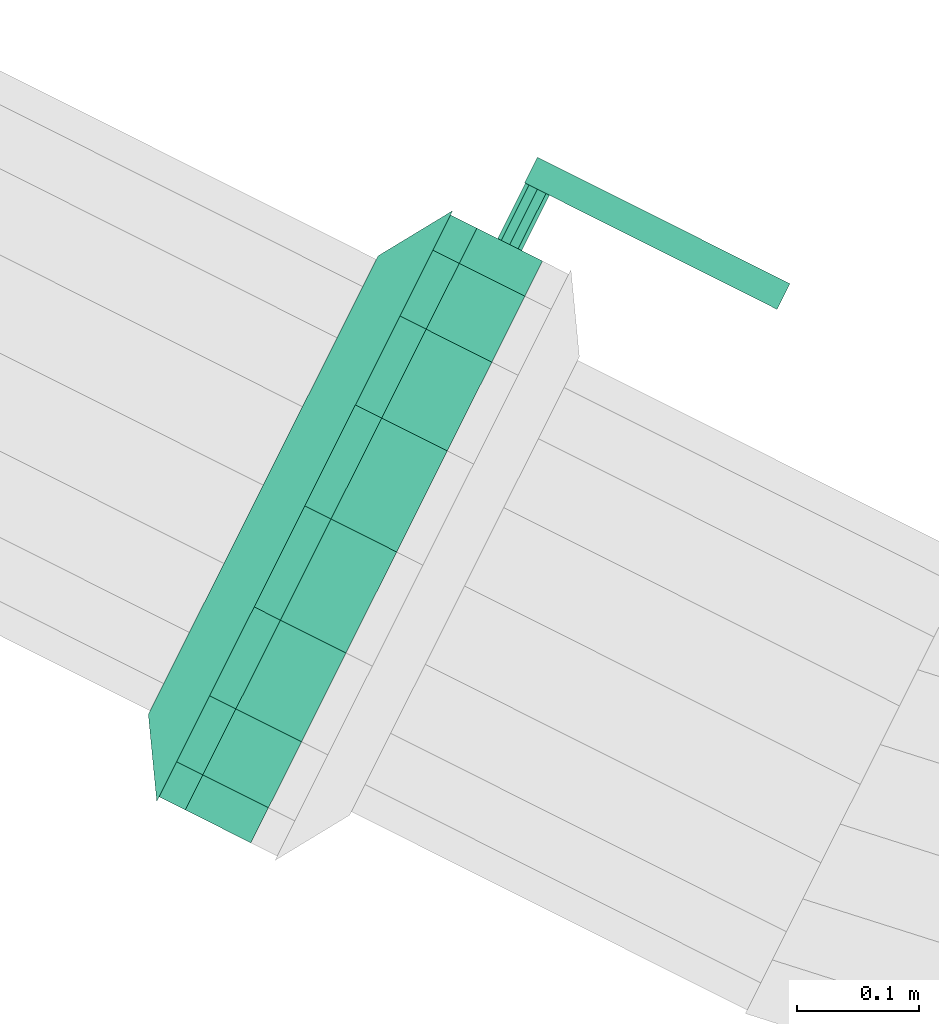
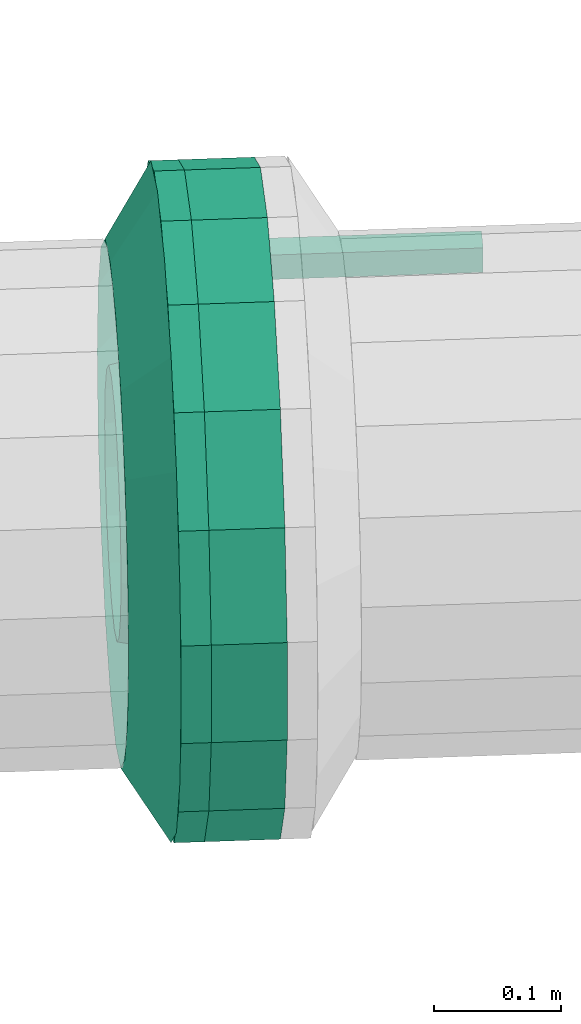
# One storey, part 26 of 152: 1 flow controller, 1 flow fitting.
"""IFC2X3 building model written with IfcOpenShell, lengths in metres."""

from ifc_helpers import new_model, si_unit, derived_unit, direction, frame, origin, place, context, subcontext, project, spatial, face_set, surface_model, source, transform, mapped, material, type_object, type_shapes, element, save


model = new_model("IFC2X3")

# Units and contexts
model_context = context("Model", 3, precision=5.2338327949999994e-05, world=origin(), true_north=direction((0.0, 1.0)))
body_context = subcontext(model_context, "Body", "Model", "MODEL_VIEW")
ifc_project = project(units=[si_unit("LENGTHUNIT", "METRE"), si_unit("AREAUNIT", "SQUARE_METRE"), si_unit("VOLUMEUNIT", "CUBIC_METRE"), si_unit("MASSUNIT", "GRAM", prefix="KILO"), si_unit("PLANEANGLEUNIT", "RADIAN"), derived_unit("THERMALTRANSMITTANCEUNIT", [(si_unit("MASSUNIT", "GRAM", prefix="KILO"), 1), (si_unit("THERMODYNAMICTEMPERATUREUNIT", "KELVIN"), -1), (si_unit("TIMEUNIT", "SECOND"), -3)])], contexts=[model_context])

# Site, building, storey
site_placement = place(None, frame((0.0, 0.0, 0.0), z_axis=(0.0, 0.0, 1.0), x_axis=(0.8939966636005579, -0.4480736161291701, 0.0)))
site = spatial("IfcSite", under=ifc_project, at=site_placement, Name="Default", CompositionType="ELEMENT")
building_placement = place(site_placement, origin())
building = spatial("IfcBuilding", under=site, at=building_placement, CompositionType="ELEMENT")
storey_placement = place(building_placement, frame((0.0, 0.0, 2.7499999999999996)))
storey = spatial("IfcBuildingStorey", under=building, at=storey_placement, Name="1. Obergeschoss", CompositionType="ELEMENT", Elevation=2.7499999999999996)

# Flow controller
ifc_material = material(Name="IfcSurfaceStyle #9317")
distribution_element_type_1 = type_object("IfcDistributionElementType", Name="Zwischenflanschklappe 262704:Zwischenflanschklappe 262704", material=ifc_material)
shared_shape_1 = source(origin(), body_context, "Body", "SurfaceModel", [
    surface_model("IfcFaceBasedSurfaceModel", [(16.270397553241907, 6.173287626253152, 5.647390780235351), (16.039547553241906, 6.173287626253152, 5.647390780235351), (16.039547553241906, 6.173287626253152, 5.62389078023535), (16.270397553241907, 6.173287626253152, 5.62389078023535), (16.039547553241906, 6.196787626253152, 5.62389078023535), (16.270397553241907, 6.196787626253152, 5.62389078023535), (16.039547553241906, 6.196787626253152, 5.647390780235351), (16.270397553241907, 6.196787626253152, 5.647390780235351), (16.081297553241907, 5.856787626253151, 5.518140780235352), (16.081297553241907, 5.816600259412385, 5.525226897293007), (16.061297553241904, 5.816600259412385, 5.525226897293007), (16.061297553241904, 5.856787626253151, 5.518140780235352), (16.081297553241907, 5.781260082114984, 5.545630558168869), (16.061297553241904, 5.781260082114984, 5.545630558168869), (16.081297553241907, 5.755029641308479, 5.57689078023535), (16.061297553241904, 5.755029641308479, 5.57689078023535), (16.081297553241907, 5.7410727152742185, 5.615237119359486), (16.061297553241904, 5.7410727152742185, 5.615237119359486), (16.081297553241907, 5.741072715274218, 5.656044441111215), (16.061297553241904, 5.741072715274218, 5.656044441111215), (16.081297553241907, 5.75502964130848, 5.69439078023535), (16.061297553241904, 5.75502964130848, 5.69439078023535), (16.081297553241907, 5.781260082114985, 5.72565100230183), (16.061297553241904, 5.781260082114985, 5.72565100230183), (16.081297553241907, 5.816600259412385, 5.746054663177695), (16.061297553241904, 5.816600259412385, 5.746054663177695), (16.081297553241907, 5.856787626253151, 5.75314078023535), (16.061297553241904, 5.856787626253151, 5.75314078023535), (16.081297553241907, 5.8969749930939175, 5.746054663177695), (16.061297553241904, 5.8969749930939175, 5.746054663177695), (16.081297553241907, 5.93231517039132, 5.72565100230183), (16.061297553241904, 5.93231517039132, 5.72565100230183), (16.081297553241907, 5.958545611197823, 5.69439078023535), (16.061297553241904, 5.958545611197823, 5.69439078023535), (16.081297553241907, 5.972502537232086, 5.656044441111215), (16.061297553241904, 5.972502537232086, 5.656044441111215), (16.081297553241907, 5.972502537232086, 5.615237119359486), (16.061297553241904, 5.972502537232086, 5.615237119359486), (16.081297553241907, 5.958545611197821, 5.57689078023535), (16.061297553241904, 5.958545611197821, 5.57689078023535), (16.081297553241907, 5.93231517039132, 5.545630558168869), (16.061297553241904, 5.93231517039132, 5.545630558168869), (16.081297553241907, 5.8969749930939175, 5.525226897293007), (16.061297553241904, 5.8969749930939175, 5.525226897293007), (16.081297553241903, 5.856787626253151, 5.63564078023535), (16.061297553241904, 5.856787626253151, 5.63564078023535), (16.061297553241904, 5.856787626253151, 5.465640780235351), (16.061297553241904, 5.798644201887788, 5.475893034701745), (16.041297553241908, 5.798644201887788, 5.475893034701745), (16.041297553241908, 5.856787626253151, 5.465640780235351), (16.061297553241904, 5.747513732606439, 5.505413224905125), (16.041297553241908, 5.747513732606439, 5.505413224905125), (16.061297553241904, 5.7095633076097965, 5.550640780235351), (16.041297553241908, 5.7095633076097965, 5.550640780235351), (16.061297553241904, 5.689370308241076, 5.606120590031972), (16.041297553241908, 5.689370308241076, 5.606120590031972), (16.061297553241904, 5.689370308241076, 5.665160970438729), (16.041297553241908, 5.689370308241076, 5.665160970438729), (16.061297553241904, 5.709563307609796, 5.72064078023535), (16.041297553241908, 5.709563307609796, 5.72064078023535), (16.061297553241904, 5.747513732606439, 5.765868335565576), (16.041297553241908, 5.747513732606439, 5.765868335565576), (16.061297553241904, 5.798644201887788, 5.795388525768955), (16.041297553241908, 5.798644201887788, 5.795388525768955), (16.061297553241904, 5.856787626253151, 5.8056407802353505), (16.041297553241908, 5.856787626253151, 5.8056407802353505), (16.061297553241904, 5.914931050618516, 5.795388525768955), (16.041297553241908, 5.914931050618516, 5.795388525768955), (16.061297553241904, 5.9660615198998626, 5.7658683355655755), (16.041297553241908, 5.9660615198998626, 5.7658683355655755), (16.061297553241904, 6.004011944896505, 5.72064078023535), (16.041297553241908, 6.004011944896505, 5.72064078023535), (16.061297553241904, 6.024204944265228, 5.665160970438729), (16.041297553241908, 6.024204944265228, 5.665160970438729), (16.061297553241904, 6.024204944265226, 5.6061205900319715), (16.041297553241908, 6.024204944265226, 5.6061205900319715), (16.061297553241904, 6.004011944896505, 5.550640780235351), (16.041297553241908, 6.004011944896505, 5.550640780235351), (16.061297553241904, 5.966061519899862, 5.505413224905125), (16.041297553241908, 5.966061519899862, 5.505413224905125), (16.061297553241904, 5.914931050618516, 5.475893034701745), (16.041297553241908, 5.914931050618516, 5.475893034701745), (16.041297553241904, 5.856787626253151, 5.63564078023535), (16.041297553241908, 5.856787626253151, 5.518140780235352), (16.041297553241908, 5.816600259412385, 5.525226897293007), (16.021297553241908, 5.816600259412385, 5.525226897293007), (16.021297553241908, 5.856787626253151, 5.518140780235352), (16.041297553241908, 5.781260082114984, 5.545630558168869), (16.021297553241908, 5.781260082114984, 5.545630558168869), (16.041297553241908, 5.755029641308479, 5.57689078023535), (16.021297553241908, 5.755029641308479, 5.57689078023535), (16.041297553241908, 5.7410727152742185, 5.615237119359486), (16.021297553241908, 5.7410727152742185, 5.615237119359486), (16.041297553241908, 5.741072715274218, 5.656044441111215), (16.021297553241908, 5.741072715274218, 5.656044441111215), (16.041297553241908, 5.75502964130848, 5.69439078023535), (16.021297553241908, 5.75502964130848, 5.69439078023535), (16.041297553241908, 5.781260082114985, 5.72565100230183), (16.021297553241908, 5.781260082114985, 5.72565100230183), (16.041297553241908, 5.816600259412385, 5.746054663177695), (16.021297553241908, 5.816600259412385, 5.746054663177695), (16.041297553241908, 5.856787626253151, 5.75314078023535), (16.021297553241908, 5.856787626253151, 5.75314078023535), (16.041297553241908, 5.8969749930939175, 5.746054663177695), (16.021297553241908, 5.8969749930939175, 5.746054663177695), (16.041297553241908, 5.93231517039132, 5.72565100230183), (16.021297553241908, 5.93231517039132, 5.72565100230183), (16.041297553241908, 5.958545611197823, 5.69439078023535), (16.021297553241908, 5.958545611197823, 5.69439078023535), (16.041297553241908, 5.972502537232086, 5.656044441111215), (16.021297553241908, 5.972502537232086, 5.656044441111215), (16.041297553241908, 5.972502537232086, 5.615237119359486), (16.021297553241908, 5.972502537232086, 5.615237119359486), (16.041297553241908, 5.958545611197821, 5.57689078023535), (16.021297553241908, 5.958545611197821, 5.57689078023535), (16.041297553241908, 5.93231517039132, 5.545630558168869), (16.021297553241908, 5.93231517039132, 5.545630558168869), (16.041297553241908, 5.8969749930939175, 5.525226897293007), (16.021297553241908, 5.8969749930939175, 5.525226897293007), (16.021297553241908, 5.856787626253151, 5.63564078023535), (16.051297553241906, 5.856787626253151, 5.62564078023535), (16.04787735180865, 5.856787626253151, 5.626243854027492), (16.04787735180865, 6.100037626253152, 5.626243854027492), (16.051297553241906, 6.100037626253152, 5.62564078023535), (16.04486967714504, 5.856787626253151, 5.62798033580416), (16.04486967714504, 6.100037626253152, 5.62798033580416), (16.042637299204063, 5.856787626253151, 5.63064078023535), (16.042637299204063, 6.100037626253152, 5.63064078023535), (16.041449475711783, 5.856787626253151, 5.633904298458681), (16.041449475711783, 6.100037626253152, 5.633904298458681), (16.041449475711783, 5.856787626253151, 5.63737726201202), (16.041449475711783, 6.100037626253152, 5.63737726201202), (16.042637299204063, 5.856787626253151, 5.6406407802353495), (16.042637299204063, 6.100037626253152, 5.6406407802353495), (16.04486967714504, 5.856787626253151, 5.64330122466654), (16.04486967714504, 6.100037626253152, 5.64330122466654), (16.04787735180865, 5.856787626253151, 5.645037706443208), (16.04787735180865, 6.100037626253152, 5.645037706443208), (16.051297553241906, 5.856787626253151, 5.6456407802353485), (16.051297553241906, 6.100037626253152, 5.6456407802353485), (16.054717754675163, 5.856787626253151, 5.645037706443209), (16.054717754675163, 6.100037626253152, 5.645037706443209), (16.057725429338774, 5.856787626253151, 5.64330122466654), (16.057725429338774, 6.100037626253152, 5.64330122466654), (16.05995780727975, 5.856787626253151, 5.6406407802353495), (16.05995780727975, 6.100037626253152, 5.6406407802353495), (16.061145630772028, 5.856787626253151, 5.637377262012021), (16.061145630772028, 6.100037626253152, 5.637377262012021), (16.061145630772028, 5.856787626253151, 5.633904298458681), (16.061145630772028, 6.100037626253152, 5.633904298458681), (16.05995780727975, 5.856787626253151, 5.63064078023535), (16.05995780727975, 6.100037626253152, 5.63064078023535), (16.057725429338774, 5.856787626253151, 5.62798033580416), (16.057725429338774, 6.100037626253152, 5.62798033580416), (16.054717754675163, 5.856787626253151, 5.626243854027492), (16.054717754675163, 6.100037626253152, 5.626243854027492), (16.051297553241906, 5.85678762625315, 5.63564078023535), (16.051297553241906, 6.100037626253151, 5.63564078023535), (16.051297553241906, 6.100037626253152, 5.6246857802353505), (16.043551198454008, 6.100037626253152, 5.627894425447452), (16.043551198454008, 6.173287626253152, 5.627894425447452), (16.051297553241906, 6.173287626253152, 5.6246857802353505), (16.040342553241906, 6.100037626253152, 5.63564078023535), (16.040342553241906, 6.173287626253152, 5.63564078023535), (16.043551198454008, 6.100037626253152, 5.643387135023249), (16.043551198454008, 6.173287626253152, 5.643387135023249), (16.051297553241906, 6.100037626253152, 5.646595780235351), (16.051297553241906, 6.173287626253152, 5.646595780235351), (16.059043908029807, 6.100037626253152, 5.643387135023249), (16.059043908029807, 6.173287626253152, 5.643387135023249), (16.062252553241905, 6.100037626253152, 5.63564078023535), (16.062252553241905, 6.173287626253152, 5.63564078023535), (16.05904390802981, 6.100037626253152, 5.627894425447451), (16.05904390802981, 6.173287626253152, 5.627894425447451), (16.051297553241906, 6.173287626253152, 5.63564078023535), (16.081297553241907, 5.856787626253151, 5.365640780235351), (16.081297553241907, 5.764442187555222, 5.381923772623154), (16.021297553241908, 5.764442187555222, 5.381923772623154), (16.021297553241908, 5.856787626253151, 5.365640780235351), (16.081297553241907, 5.683234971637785, 5.4288087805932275), (16.021297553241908, 5.683234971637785, 5.4288087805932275), (16.081297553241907, 5.622960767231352, 5.50064078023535), (16.021297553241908, 5.622960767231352, 5.50064078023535), (16.081297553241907, 5.590889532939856, 5.588755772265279), (16.021297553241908, 5.590889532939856, 5.588755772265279), (16.081297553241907, 5.590889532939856, 5.682525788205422), (16.021297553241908, 5.590889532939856, 5.682525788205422), (16.081297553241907, 5.622960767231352, 5.770640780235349), (16.021297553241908, 5.622960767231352, 5.770640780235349), (16.081297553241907, 5.683234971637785, 5.8424727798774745), (16.021297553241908, 5.683234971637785, 5.8424727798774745), (16.081297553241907, 5.764442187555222, 5.889357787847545), (16.021297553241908, 5.764442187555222, 5.889357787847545), (16.081297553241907, 5.856787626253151, 5.90564078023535), (16.021297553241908, 5.856787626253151, 5.90564078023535), (16.081297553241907, 5.9491330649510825, 5.889357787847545), (16.021297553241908, 5.9491330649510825, 5.889357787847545), (16.081297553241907, 6.030340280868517, 5.8424727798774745), (16.021297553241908, 6.030340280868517, 5.8424727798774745), (16.081297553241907, 6.09061448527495, 5.770640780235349), (16.021297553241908, 6.09061448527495, 5.770640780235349), (16.081297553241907, 6.122685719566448, 5.682525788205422), (16.021297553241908, 6.122685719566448, 5.682525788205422), (16.081297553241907, 6.122685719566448, 5.588755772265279), (16.021297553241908, 6.122685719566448, 5.588755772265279), (16.081297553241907, 6.09061448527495, 5.50064078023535), (16.021297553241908, 6.09061448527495, 5.50064078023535), (16.081297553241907, 6.030340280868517, 5.428808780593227), (16.021297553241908, 6.030340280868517, 5.428808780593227), (16.081297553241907, 5.949133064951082, 5.381923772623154), (16.021297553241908, 5.949133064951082, 5.381923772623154)], [face_set([[[0, 1, 2, 3]], [[3, 2, 4, 5]], [[5, 4, 6, 7]], [[7, 6, 1, 0]], [[0, 3, 5, 7]], [[6, 4, 2, 1]], [[8, 9, 10, 11]], [[9, 12, 13, 10]], [[12, 14, 15, 13]], [[14, 16, 17, 15]], [[16, 18, 19, 17]], [[18, 20, 21, 19]], [[20, 22, 23, 21]], [[22, 24, 25, 23]], [[24, 26, 27, 25]], [[26, 28, 29, 27]], [[28, 30, 31, 29]], [[30, 32, 33, 31]], [[32, 34, 35, 33]], [[34, 36, 37, 35]], [[36, 38, 39, 37]], [[38, 40, 41, 39]], [[40, 42, 43, 41]], [[42, 8, 11, 43]], [[44, 9, 8]], [[44, 12, 9]], [[44, 14, 12]], [[44, 16, 14]], [[44, 18, 16]], [[44, 20, 18]], [[44, 22, 20]], [[44, 24, 22]], [[44, 26, 24]], [[44, 28, 26]], [[44, 30, 28]], [[44, 32, 30]], [[44, 34, 32]], [[44, 36, 34]], [[44, 38, 36]], [[44, 40, 38]], [[44, 42, 40]], [[44, 8, 42]], [[45, 43, 11]], [[45, 41, 43]], [[45, 39, 41]], [[45, 37, 39]], [[45, 35, 37]], [[45, 33, 35]], [[45, 31, 33]], [[45, 29, 31]], [[45, 27, 29]], [[45, 25, 27]], [[45, 23, 25]], [[45, 21, 23]], [[45, 19, 21]], [[45, 17, 19]], [[45, 15, 17]], [[45, 13, 15]], [[45, 10, 13]], [[45, 11, 10]], [[46, 47, 48, 49]], [[47, 50, 51, 48]], [[50, 52, 53, 51]], [[52, 54, 55, 53]], [[54, 56, 57, 55]], [[56, 58, 59, 57]], [[58, 60, 61, 59]], [[60, 62, 63, 61]], [[62, 64, 65, 63]], [[64, 66, 67, 65]], [[66, 68, 69, 67]], [[68, 70, 71, 69]], [[70, 72, 73, 71]], [[72, 74, 75, 73]], [[74, 76, 77, 75]], [[76, 78, 79, 77]], [[78, 80, 81, 79]], [[80, 46, 49, 81]], [[45, 47, 46]], [[45, 50, 47]], [[45, 52, 50]], [[45, 54, 52]], [[45, 56, 54]], [[45, 58, 56]], [[45, 60, 58]], [[45, 62, 60]], [[45, 64, 62]], [[45, 66, 64]], [[45, 68, 66]], [[45, 70, 68]], [[45, 72, 70]], [[45, 74, 72]], [[45, 76, 74]], [[45, 78, 76]], [[45, 80, 78]], [[45, 46, 80]], [[82, 81, 49]], [[82, 79, 81]], [[82, 77, 79]], [[82, 75, 77]], [[82, 73, 75]], [[82, 71, 73]], [[82, 69, 71]], [[82, 67, 69]], [[82, 65, 67]], [[82, 63, 65]], [[82, 61, 63]], [[82, 59, 61]], [[82, 57, 59]], [[82, 55, 57]], [[82, 53, 55]], [[82, 51, 53]], [[82, 48, 51]], [[82, 49, 48]], [[83, 84, 85, 86]], [[84, 87, 88, 85]], [[87, 89, 90, 88]], [[89, 91, 92, 90]], [[91, 93, 94, 92]], [[93, 95, 96, 94]], [[95, 97, 98, 96]], [[97, 99, 100, 98]], [[99, 101, 102, 100]], [[101, 103, 104, 102]], [[103, 105, 106, 104]], [[105, 107, 108, 106]], [[107, 109, 110, 108]], [[109, 111, 112, 110]], [[111, 113, 114, 112]], [[113, 115, 116, 114]], [[115, 117, 118, 116]], [[117, 83, 86, 118]], [[82, 84, 83]], [[82, 87, 84]], [[82, 89, 87]], [[82, 91, 89]], [[82, 93, 91]], [[82, 95, 93]], [[82, 97, 95]], [[82, 99, 97]], [[82, 101, 99]], [[82, 103, 101]], [[82, 105, 103]], [[82, 107, 105]], [[82, 109, 107]], [[82, 111, 109]], [[82, 113, 111]], [[82, 115, 113]], [[82, 117, 115]], [[82, 83, 117]], [[119, 118, 86]], [[119, 116, 118]], [[119, 114, 116]], [[119, 112, 114]], [[119, 110, 112]], [[119, 108, 110]], [[119, 106, 108]], [[119, 104, 106]], [[119, 102, 104]], [[119, 100, 102]], [[119, 98, 100]], [[119, 96, 98]], [[119, 94, 96]], [[119, 92, 94]], [[119, 90, 92]], [[119, 88, 90]], [[119, 85, 88]], [[119, 86, 85]], [[120, 121, 122, 123]], [[121, 124, 125, 122]], [[124, 126, 127, 125]], [[126, 128, 129, 127]], [[128, 130, 131, 129]], [[130, 132, 133, 131]], [[132, 134, 135, 133]], [[134, 136, 137, 135]], [[136, 138, 139, 137]], [[138, 140, 141, 139]], [[140, 142, 143, 141]], [[142, 144, 145, 143]], [[144, 146, 147, 145]], [[146, 148, 149, 147]], [[148, 150, 151, 149]], [[150, 152, 153, 151]], [[152, 154, 155, 153]], [[154, 120, 123, 155]], [[156, 121, 120]], [[156, 124, 121]], [[156, 126, 124]], [[156, 128, 126]], [[156, 130, 128]], [[156, 132, 130]], [[156, 134, 132]], [[156, 136, 134]], [[156, 138, 136]], [[156, 140, 138]], [[156, 142, 140]], [[156, 144, 142]], [[156, 146, 144]], [[156, 148, 146]], [[156, 150, 148]], [[156, 152, 150]], [[156, 154, 152]], [[156, 120, 154]], [[157, 155, 123]], [[157, 153, 155]], [[157, 151, 153]], [[157, 149, 151]], [[157, 147, 149]], [[157, 145, 147]], [[157, 143, 145]], [[157, 141, 143]], [[157, 139, 141]], [[157, 137, 139]], [[157, 135, 137]], [[157, 133, 135]], [[157, 131, 133]], [[157, 129, 131]], [[157, 127, 129]], [[157, 125, 127]], [[157, 122, 125]], [[157, 123, 122]], [[158, 159, 160, 161]], [[159, 162, 163, 160]], [[162, 164, 165, 163]], [[164, 166, 167, 165]], [[166, 168, 169, 167]], [[168, 170, 171, 169]], [[170, 172, 173, 171]], [[172, 158, 161, 173]], [[174, 173, 161]], [[174, 171, 173]], [[174, 169, 171]], [[174, 167, 169]], [[174, 165, 167]], [[174, 163, 165]], [[174, 160, 163]], [[174, 161, 160]], [[175, 176, 177, 178]], [[176, 179, 180, 177]], [[179, 181, 182, 180]], [[181, 183, 184, 182]], [[183, 185, 186, 184]], [[185, 187, 188, 186]], [[187, 189, 190, 188]], [[189, 191, 192, 190]], [[191, 193, 194, 192]], [[193, 195, 196, 194]], [[195, 197, 198, 196]], [[197, 199, 200, 198]], [[199, 201, 202, 200]], [[201, 203, 204, 202]], [[203, 205, 206, 204]], [[205, 207, 208, 206]], [[207, 209, 210, 208]], [[209, 175, 178, 210]]])]),
])
type_shapes(distribution_element_type_1, [shared_shape_1])
flow_controller_placement = place(storey_placement, frame((0.0, 0.0, -2.7499999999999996)))
element("IfcFlowController", 1, at=flow_controller_placement, inside=storey, type_object=distribution_element_type_1, material=ifc_material, Name="Zwischenflanschklappe", ObjectType="Zwischenflanschklappe", context=body_context, shape_type="MappedRepresentation", body=[
    mapped(shared_shape_1, transform((0.0, 0.0, 0.0), scale=1.0)),
])

# Flow fitting
distribution_element_type_2 = type_object("IfcDistributionElementType", Name="Flansch 262727:Flansch 262727", material=ifc_material)
shared_shape_2 = source(origin(), body_context, "Body", "SurfaceModel", [
    surface_model("IfcFaceBasedSurfaceModel", [(16.021297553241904, 5.856787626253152, 5.8056407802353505), (16.021297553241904, 5.914931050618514, 5.7953885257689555), (15.997297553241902, 5.914931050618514, 5.7953885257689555), (15.997297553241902, 5.856787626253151, 5.8056407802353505), (16.021297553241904, 5.9660615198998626, 5.765868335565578), (15.997297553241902, 5.9660615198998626, 5.765868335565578), (16.021297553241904, 6.004011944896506, 5.720640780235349), (15.997297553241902, 6.004011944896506, 5.720640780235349), (16.021297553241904, 6.024204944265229, 5.6651609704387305), (15.997297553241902, 6.024204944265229, 5.6651609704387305), (16.021297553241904, 6.024204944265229, 5.606120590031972), (15.997297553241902, 6.024204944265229, 5.606120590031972), (16.021297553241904, 6.00401194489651, 5.55064078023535), (15.997297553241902, 6.00401194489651, 5.55064078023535), (16.021297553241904, 5.966061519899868, 5.505413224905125), (15.997297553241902, 5.966061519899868, 5.505413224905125), (16.021297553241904, 5.91493105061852, 5.475893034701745), (15.997297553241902, 5.91493105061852, 5.475893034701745), (16.021297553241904, 5.856787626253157, 5.465640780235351), (15.997297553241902, 5.856787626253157, 5.465640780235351), (16.021297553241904, 5.798644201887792, 5.475893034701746), (15.997297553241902, 5.798644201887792, 5.475893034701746), (16.021297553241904, 5.747513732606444, 5.505413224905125), (15.997297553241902, 5.747513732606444, 5.505413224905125), (16.021297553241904, 5.709563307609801, 5.55064078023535), (15.997297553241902, 5.709563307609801, 5.55064078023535), (16.021297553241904, 5.68937030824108, 5.606120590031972), (15.997297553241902, 5.68937030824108, 5.606120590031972), (16.021297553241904, 5.689370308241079, 5.6651609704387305), (15.997297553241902, 5.689370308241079, 5.6651609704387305), (16.021297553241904, 5.709563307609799, 5.72064078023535), (15.997297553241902, 5.709563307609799, 5.72064078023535), (16.021297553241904, 5.747513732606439, 5.765868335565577), (15.997297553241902, 5.747513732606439, 5.765868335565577), (16.021297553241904, 5.798644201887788, 5.7953885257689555), (15.997297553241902, 5.798644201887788, 5.7953885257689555), (15.997297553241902, 5.856787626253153, 5.6356407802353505), (15.997297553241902, 5.739287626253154, 5.63564078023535), (15.997297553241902, 5.7463737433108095, 5.675828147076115), (15.959297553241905, 5.753844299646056, 5.673109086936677), (15.959297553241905, 5.7472376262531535, 5.63564078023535), (15.997297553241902, 5.766777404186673, 5.711168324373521), (15.959297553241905, 5.77286745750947, 5.706058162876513), (15.997297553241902, 5.7980376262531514, 5.7373987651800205), (15.959297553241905, 5.802012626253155, 5.730513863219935), (15.997297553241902, 5.836383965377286, 5.751355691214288), (15.959297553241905, 5.83776446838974, 5.743526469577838), (15.997297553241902, 5.877191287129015, 5.751355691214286), (15.959297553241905, 5.875810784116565, 5.743526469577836), (15.997297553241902, 5.915537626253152, 5.7373987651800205), (15.959297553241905, 5.911562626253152, 5.730513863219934), (15.997297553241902, 5.946797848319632, 5.711168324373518), (15.959297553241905, 5.940707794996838, 5.706058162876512), (15.997297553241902, 5.9672015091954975, 5.675828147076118), (15.959297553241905, 5.959730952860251, 5.673109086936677), (15.997297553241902, 5.974287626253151, 5.63564078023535), (15.959297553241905, 5.9663376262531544, 5.63564078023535), (15.997297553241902, 5.9672015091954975, 5.5954534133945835), (15.959297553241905, 5.959730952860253, 5.59817247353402), (15.997297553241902, 5.946797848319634, 5.5601132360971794), (15.959297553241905, 5.940707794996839, 5.565223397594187), (15.997297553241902, 5.915537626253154, 5.533882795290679), (15.959297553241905, 5.911562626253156, 5.540767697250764), (15.997297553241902, 5.877191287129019, 5.519925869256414), (15.959297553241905, 5.875810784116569, 5.527755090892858), (15.997297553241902, 5.836383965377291, 5.519925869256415), (15.959297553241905, 5.837764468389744, 5.527755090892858), (15.997297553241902, 5.798037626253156, 5.533882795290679), (15.959297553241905, 5.802012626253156, 5.540767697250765), (15.997297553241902, 5.766777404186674, 5.56011323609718), (15.959297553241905, 5.772867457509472, 5.565223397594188), (15.997297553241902, 5.74637374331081, 5.595453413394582), (15.959297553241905, 5.753844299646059, 5.598172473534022), (16.021297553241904, 5.856787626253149, 5.90564078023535), (16.021297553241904, 5.949133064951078, 5.889357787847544), (15.997297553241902, 5.949133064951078, 5.889357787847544), (15.997297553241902, 5.856787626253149, 5.90564078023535), (16.021297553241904, 6.030340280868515, 5.842472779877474), (15.997297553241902, 6.030340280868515, 5.842472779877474), (16.021297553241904, 6.090614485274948, 5.770640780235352), (15.997297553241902, 6.090614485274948, 5.770640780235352), (16.021297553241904, 6.122685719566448, 5.682525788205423), (15.997297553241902, 6.122685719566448, 5.682525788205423), (16.021297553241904, 6.12268571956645, 5.588755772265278), (15.997297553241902, 6.12268571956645, 5.588755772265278), (16.021297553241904, 6.090614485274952, 5.50064078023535), (15.997297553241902, 6.090614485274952, 5.50064078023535), (16.021297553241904, 6.030340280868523, 5.4288087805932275), (15.997297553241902, 6.030340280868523, 5.4288087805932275), (16.021297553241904, 5.949133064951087, 5.381923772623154), (15.997297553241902, 5.949133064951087, 5.381923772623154), (16.021297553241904, 5.856787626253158, 5.365640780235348), (15.997297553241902, 5.856787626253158, 5.365640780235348), (16.021297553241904, 5.764442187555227, 5.381923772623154), (15.997297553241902, 5.764442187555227, 5.381923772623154), (16.021297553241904, 5.68323497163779, 5.4288087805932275), (15.997297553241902, 5.68323497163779, 5.4288087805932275), (16.021297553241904, 5.6229607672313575, 5.50064078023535), (15.997297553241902, 5.6229607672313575, 5.50064078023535), (16.021297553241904, 5.590889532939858, 5.588755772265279), (15.997297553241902, 5.590889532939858, 5.588755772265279), (16.021297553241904, 5.590889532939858, 5.682525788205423), (15.997297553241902, 5.590889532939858, 5.682525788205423), (16.021297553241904, 5.622960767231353, 5.770640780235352), (15.997297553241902, 5.622960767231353, 5.770640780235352), (16.021297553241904, 5.683234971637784, 5.8424727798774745), (15.997297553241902, 5.683234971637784, 5.8424727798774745), (16.021297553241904, 5.764442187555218, 5.889357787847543), (15.997297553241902, 5.764442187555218, 5.889357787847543), (15.997297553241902, 5.586787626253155, 5.63564078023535), (15.997297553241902, 5.603070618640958, 5.727986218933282), (15.959297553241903, 5.659875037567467, 5.7073111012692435), (15.959297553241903, 5.647237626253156, 5.63564078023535), (15.997297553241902, 5.649955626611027, 5.809193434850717), (15.959297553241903, 5.696263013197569, 5.770336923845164), (15.997297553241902, 5.721787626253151, 5.869467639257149), (15.959297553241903, 5.752012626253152, 5.817116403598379), (15.997297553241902, 5.809902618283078, 5.901538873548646), (15.959297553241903, 5.820399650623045, 5.842007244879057), (15.997297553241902, 5.903672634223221, 5.901538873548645), (15.959297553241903, 5.8931756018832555, 5.842007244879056), (15.997297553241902, 5.991787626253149, 5.869467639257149), (15.959297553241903, 5.96156262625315, 5.817116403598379), (15.997297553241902, 6.063619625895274, 5.809193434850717), (15.959297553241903, 6.0173122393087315, 5.770336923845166), (15.997297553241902, 6.1105046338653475, 5.727986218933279), (15.959297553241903, 6.05370021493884, 5.7073111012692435), (15.997297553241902, 6.1267876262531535, 5.63564078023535), (15.959297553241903, 6.066337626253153, 5.63564078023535), (15.997297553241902, 6.11050463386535, 5.543295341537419), (15.959297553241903, 6.05370021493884, 5.563970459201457), (15.997297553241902, 6.0636196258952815, 5.4620881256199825), (15.959297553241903, 6.017312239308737, 5.500944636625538), (15.997297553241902, 5.991787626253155, 5.401813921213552), (15.959297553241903, 5.961562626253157, 5.45416515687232), (15.997297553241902, 5.903672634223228, 5.369742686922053), (15.959297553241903, 5.893175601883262, 5.429274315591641), (15.997297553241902, 5.809902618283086, 5.369742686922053), (15.959297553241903, 5.820399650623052, 5.42927431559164), (15.997297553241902, 5.721787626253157, 5.401813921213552), (15.959297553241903, 5.7520126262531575, 5.45416515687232), (15.997297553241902, 5.649955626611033, 5.462088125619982), (15.959297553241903, 5.696263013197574, 5.500944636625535), (15.997297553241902, 5.6030706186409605, 5.54329534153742), (15.959297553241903, 5.659875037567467, 5.563970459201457)], [face_set([[[0, 1, 2, 3]], [[1, 4, 5, 2]], [[4, 6, 7, 5]], [[6, 8, 9, 7]], [[8, 10, 11, 9]], [[10, 12, 13, 11]], [[12, 14, 15, 13]], [[14, 16, 17, 15]], [[16, 18, 19, 17]], [[18, 20, 21, 19]], [[20, 22, 23, 21]], [[22, 24, 25, 23]], [[24, 26, 27, 25]], [[26, 28, 29, 27]], [[28, 30, 31, 29]], [[30, 32, 33, 31]], [[32, 34, 35, 33]], [[34, 0, 3, 35]], [[36, 35, 3]], [[36, 33, 35]], [[36, 31, 33]], [[36, 29, 31]], [[36, 27, 29]], [[36, 25, 27]], [[36, 23, 25]], [[36, 21, 23]], [[36, 19, 21]], [[36, 17, 19]], [[36, 15, 17]], [[36, 13, 15]], [[36, 11, 13]], [[36, 9, 11]], [[36, 7, 9]], [[36, 5, 7]], [[36, 2, 5]], [[36, 3, 2]], [[37, 38, 39, 40]], [[38, 41, 42, 39]], [[41, 43, 44, 42]], [[43, 45, 46, 44]], [[45, 47, 48, 46]], [[47, 49, 50, 48]], [[49, 51, 52, 50]], [[51, 53, 54, 52]], [[53, 55, 56, 54]], [[55, 57, 58, 56]], [[57, 59, 60, 58]], [[59, 61, 62, 60]], [[61, 63, 64, 62]], [[63, 65, 66, 64]], [[65, 67, 68, 66]], [[67, 69, 70, 68]], [[69, 71, 72, 70]], [[71, 37, 40, 72]], [[73, 74, 75, 76]], [[74, 77, 78, 75]], [[77, 79, 80, 78]], [[79, 81, 82, 80]], [[81, 83, 84, 82]], [[83, 85, 86, 84]], [[85, 87, 88, 86]], [[87, 89, 90, 88]], [[89, 91, 92, 90]], [[91, 93, 94, 92]], [[93, 95, 96, 94]], [[95, 97, 98, 96]], [[97, 99, 100, 98]], [[99, 101, 102, 100]], [[101, 103, 104, 102]], [[103, 105, 106, 104]], [[105, 107, 108, 106]], [[107, 73, 76, 108]], [[109, 110, 111, 112]], [[110, 113, 114, 111]], [[113, 115, 116, 114]], [[115, 117, 118, 116]], [[117, 119, 120, 118]], [[119, 121, 122, 120]], [[121, 123, 124, 122]], [[123, 125, 126, 124]], [[125, 127, 128, 126]], [[127, 129, 130, 128]], [[129, 131, 132, 130]], [[131, 133, 134, 132]], [[133, 135, 136, 134]], [[135, 137, 138, 136]], [[137, 139, 140, 138]], [[139, 141, 142, 140]], [[141, 143, 144, 142]], [[143, 109, 112, 144]]])]),
])
type_shapes(distribution_element_type_2, [shared_shape_2])
flow_fitting_placement = place(storey_placement, frame((0.0, 0.0, -2.7499999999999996)))
element("IfcFlowFitting", 2, at=flow_fitting_placement, inside=storey, type_object=distribution_element_type_2, material=ifc_material, Name="Flansch", ObjectType="Flansch", context=body_context, shape_type="MappedRepresentation", body=[
    mapped(shared_shape_2, transform((0.0, 0.0, 0.0), scale=1.0)),
])

save(model, "model.ifc")
